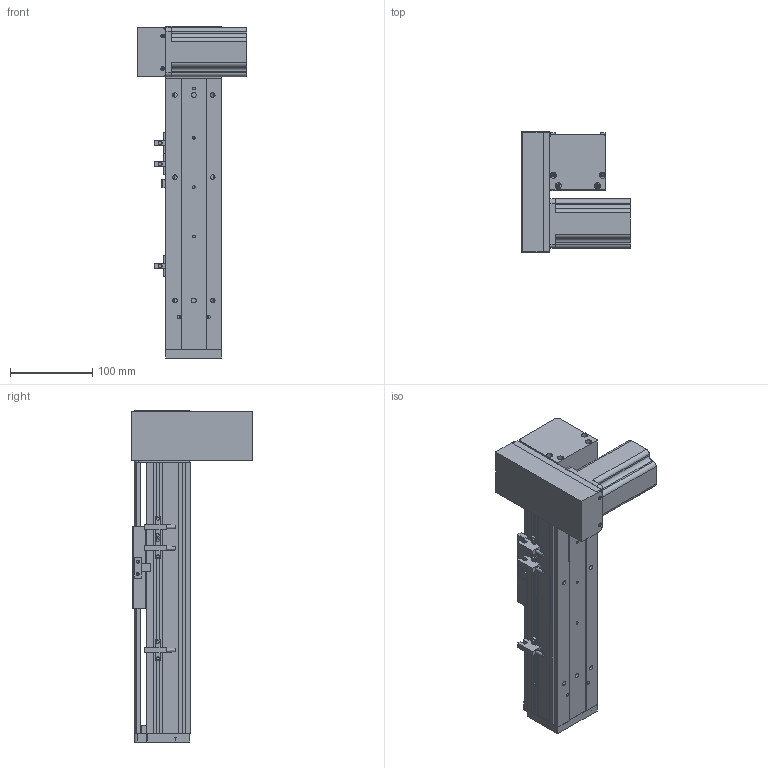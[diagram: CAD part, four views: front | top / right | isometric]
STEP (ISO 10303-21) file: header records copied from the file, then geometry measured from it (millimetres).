
FILE_DESCRIPTION (( 'STEP AP203' ), '1' );
FILE_NAME ('ML68-S150-DR.STEP', '2016-08-05T00:45:07', ( '' ), ( '' ), 'SwSTEP 2.0', 'SolidWorks 2014', '' );
FILE_SCHEMA (( 'CONFIG_CONTROL_DESIGN' ));
Length unit declared in the file: millimetre
Products named in the file (12): ML68-S150-DR; 三协电机MH201N2_預設; ML68雄赽釱; 葩璃 ML68菁釱^ML68-S150-DR; ML68滅鳥啣盓傅輸; ML68奻裔^ML68-S150-DR; QS68左右折电机板罩子; 換覜ん; QS68酘衵殏萇儂啣; ML68傷啣; ML68-BL傷啣; 60換覜結え
Assembly tree (13 placements, depth 2):
  ML68-S150-DR
    葩璃 ML68菁釱^ML68-S150-DR
    ML68奻裔^ML68-S150-DR
    ML68傷啣
    ML68-BL傷啣
    60換覜結え
    換覜ん  x3
    三协电机MH201N2_預設
    ML68雄赽釱
    QS68酘衵殏萇儂啣
    QS68左右折电机板罩子
    ML68滅鳥啣盓傅輸
Bounding box: 133.5 x 148 x 404 mm (x, y, z)
Volume: 1149445.7 mm3; surface area: 371894.9 mm2
Topology: 13 solids, 13 shells, 833 faces, 2276 edges, 1441 vertices
Faces by surface type: cylinder 372, plane 365, cone 96
Entity records: 26008 total; most frequent: CARTESIAN_POINT 4714, DIRECTION 4298, ORIENTED_EDGE 4052, EDGE_CURVE 2026, AXIS2_PLACEMENT_3D 1541, VERTEX_POINT 1329, LINE 1216, VECTOR 1216
